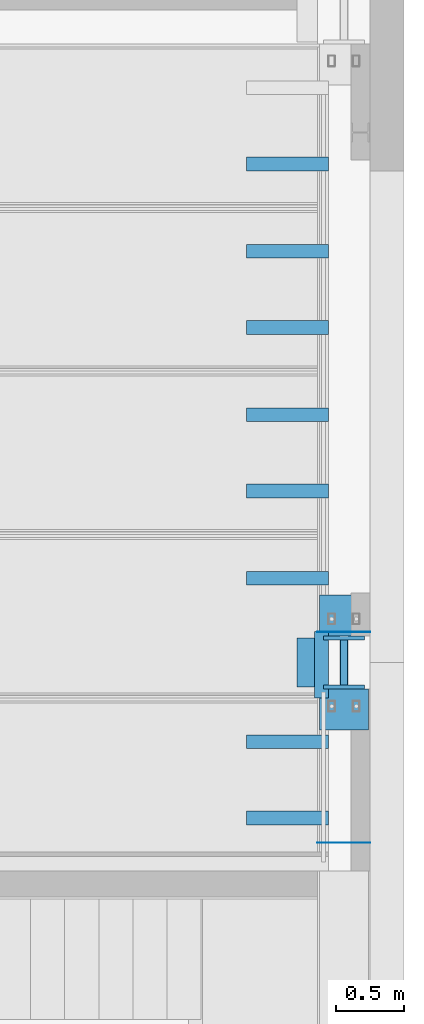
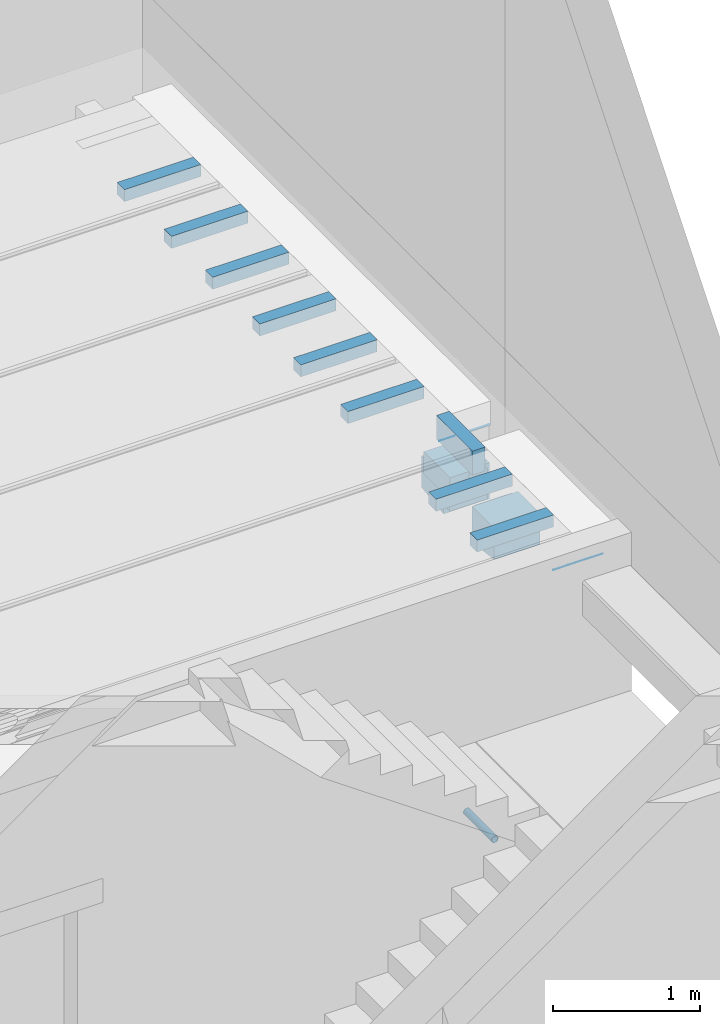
# One storey, part 28 of 230: 19 beams.
"""IFC4X3_ADD2 building model written with IfcOpenShell, lengths in millimetres."""

from ifc_helpers import new_model, entity, si_unit, direction, frame, frame_2d, origin_with_axes, place, context, subcontext, project, spatial, rectangle, hollow_circle, extrude, material, element, save


model = new_model("IFC4X3_ADD2")

# Units and contexts
model_context = context("Model", 3, precision=1e-05, world=origin_with_axes(), true_north=direction((0.0, 1.0)))
body_context = subcontext(model_context, "Body", "Model", "MODEL_VIEW")
ifc_project = project(units=[si_unit("LENGTHUNIT", "METRE", prefix="MILLI"), si_unit("AREAUNIT", "SQUARE_METRE"), si_unit("VOLUMEUNIT", "CUBIC_METRE"), si_unit("PLANEANGLEUNIT", "RADIAN"), si_unit("TIMEUNIT", "SECOND"), si_unit("MASSUNIT", "GRAM")], contexts=[model_context])

# Site, building, storey
site_placement = place(None, origin_with_axes())
site = spatial("IfcSite", under=ifc_project, at=site_placement, Name="Site", CompositionType="ELEMENT")
building_placement = place(site_placement, origin_with_axes())
building = spatial("IfcBuilding", under=site, at=building_placement, Name="IFC Building Story")
storey_placement = place(building_placement, origin_with_axes())
storey = spatial("IfcBuildingStorey", under=building, at=storey_placement, Name="ETAGE 00 (0)", Elevation=0.0)

# Beams
ifc_material_1 = material(Name="STEEL/Accessory_C50/60 64192")
for number, where, z_axis, x_axis, name in (
    (1, (48131.1886362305, 21274.9996109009, 3540.0), (1.0, 0.0, 0.0), (0.0, 0.0, 1.0), "BEK1"),
    (2, (48491.18863623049, 21964.9996109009, 3540.0), (-1.0, 0.0, 0.0), (0.0, 0.0, 1.0), "BEK1"),
):
    element("IfcBeam", number, at=place(storey_placement, frame(where, z_axis=z_axis, x_axis=x_axis)), inside=storey, material=ifc_material_1, Name=name, ObjectType="CORBEL300-300-260", context=body_context, shape_type="SweptSolid", body=[
        extrude(entity("IfcTrapeziumProfileDef", "AREA", None, entity("IfcAxis2Placement2D", entity("IfcCartesianPoint", [0.0, 5.95523630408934e-12]), entity("IfcDirection", [1.0, 0.0])), 300.0, 260.0, 300.0, 40.0), origin_with_axes(), (0.0, 0.0, 1.0), 359.9999999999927),
    ])
beam_1_placement = place(storey_placement, frame((48041.1886362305, 21799.9996109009, 3875.0), z_axis=(0.0, -1.0, 0.0), x_axis=(0.0, 0.0, 1.0)))
element("IfcBeam", 3, at=beam_1_placement, inside=storey, material=ifc_material_1, Name="BEK1", ObjectType="CORBEL200-150-180", context=body_context, shape_type="SweptSolid", body=[
    extrude(entity("IfcTrapeziumProfileDef", "AREA", None, entity("IfcAxis2Placement2D", entity("IfcCartesianPoint", [0.0, 5.95523630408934e-12]), entity("IfcDirection", [1.0, 0.0])), 200.0, 180.0, 150.0, 19.9999999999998), origin_with_axes(), (0.0, 0.0, 1.0), 360.0),
])
ifc_material_2 = material(Name="STEEL/Accessory_invisible")
beam_2_placement = place(storey_placement, frame((48096.18900000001, 21605.0006103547, 4100.0), z_axis=(1.0, 0.0, 0.0), x_axis=(0.0, 0.0, -1.0)))
element("IfcBeam", 4, at=beam_2_placement, inside=storey, material=ifc_material_2, Name="ES32", ObjectType="200*490", context=body_context, shape_type="SweptSolid", body=[
    extrude(rectangle(XDim=200.0, YDim=489.999999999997, at=frame_2d((0.0, 5.95523630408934e-12), x_axis=(1.0, 0.0))), origin_with_axes(), (0.0, 0.0, 1.0), 100.0),
])
for number, where, z_axis, x_axis, name in (
    (5, (48196.18900000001, 22240.0006103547, 4150.0), (-1.0, 0.0, 0.0), (0.0, -1.0, 0.0), "ES7"),
    (6, (48196.18900000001, 21040.0006103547, 4150.0), (-1.0, 0.0, 0.0), (0.0, -1.0, 0.0), "ES7"),
    (7, (48196.18900000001, 20480.0006103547, 4150.0), (-1.0, 0.0, 0.0), (0.0, -1.0, 0.0), "ES7"),
):
    element("IfcBeam", number, at=place(storey_placement, frame(where, z_axis=z_axis, x_axis=x_axis)), inside=storey, material=ifc_material_2, Name=name, ObjectType="100*100", context=body_context, shape_type="SweptSolid", body=[
        extrude(rectangle(XDim=100.0, YDim=99.99999999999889, at=frame_2d((0.0, 5.95523630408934e-12), x_axis=(1.0, 0.0))), origin_with_axes(), (0.0, 0.0, 1.0), 600.0),
    ])
ifc_material_3 = material(Name="STEEL/Accessory_EPS")
for number, where, z_axis, x_axis, name in (
    (8, (48461.1886362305, 21439.9996109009, 3544.99999999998), (-1.0, 0.0, 0.0), (0.0, 0.0, 1.0), "POL4"),
    (9, (48461.1886362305, 21799.9996109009, 3544.99999999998), (-1.0, 0.0, 0.0), (0.0, 0.0, 1.0), "POL4"),
):
    element("IfcBeam", number, at=place(storey_placement, frame(where, z_axis=z_axis, x_axis=x_axis)), inside=storey, material=ifc_material_3, Name=name, ObjectType="30*300", context=body_context, shape_type="SweptSolid", body=[
        extrude(rectangle(XDim=250.0, YDim=30.0000000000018, at=frame_2d((0.0, 5.95523630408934e-12), x_axis=(1.0, 0.0))), origin_with_axes(), (0.0, 0.0, 1.0), 300.0),
    ])
ifc_material_4 = material(Name="STEEL/Accessory_PVC")
beam_3_placement = place(storey_placement, frame((48311.1886362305, 21427.9996108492, 860.0), z_axis=(0.0, 1.0, 0.0), x_axis=(1.0, 0.0, 0.0)))
element("IfcBeam", 10, at=beam_3_placement, inside=storey, material=ifc_material_4, Name="PS13", ObjectType="O56*3", context=body_context, shape_type="SweptSolid", body=[
    extrude(hollow_circle(Radius=28.0, WallThickness=3.0, at=frame_2d((0.0, 5.95523630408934e-12), x_axis=(1.0, 0.0))), origin_with_axes(), (0.0, 0.0, 1.0), 384.0),
])
beam_4_placement = place(storey_placement, frame((48235.68599999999, 20297.6010619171, 3850.0), z_axis=(-1.0, 0.0, 0.0), x_axis=(0.0, 1.0, 0.0)))
element("IfcBeam", 11, at=beam_4_placement, inside=storey, material=ifc_material_2, Name="ZW3", ObjectType="1*1 3", context=body_context, shape_type="SweptSolid", body=[
    extrude(rectangle(XDim=0.9999999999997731, YDim=0.9999999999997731, at=frame_2d((0.0, 5.95523630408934e-12), x_axis=(1.0, 0.0))), origin_with_axes(), (0.0, 0.0, 1.0), 120.0),
])
for number, where, z_axis, x_axis, name in (
    (12, (48505.686, 20297.6010619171, 3850.0), (-1.0, 0.0, 0.0), (0.0, 1.0, 0.0), "ZW3"),
    (13, (48505.686, 21844.9996109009, 3984.5), (-1.0, 0.0, 0.0), (0.0, 1.0, 0.0), "ZW3"),
):
    element("IfcBeam", number, at=place(storey_placement, frame(where, z_axis=z_axis, x_axis=x_axis)), inside=storey, material=ifc_material_2, Name=name, ObjectType="1*1 3", context=body_context, shape_type="SweptSolid", body=[
        extrude(rectangle(XDim=0.9999999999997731, YDim=0.9999999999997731, at=frame_2d((0.0, 5.95523630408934e-12), x_axis=(1.0, 0.0))), origin_with_axes(), (0.0, 0.0, 1.0), 270.0000000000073),
    ])
beam_5_placement = place(storey_placement, frame((48235.586, 21844.9996109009, 3984.5), z_axis=(-1.0, 0.0, 0.0), x_axis=(0.0, 1.0, 0.0)))
element("IfcBeam", 14, at=beam_5_placement, inside=storey, material=ifc_material_2, Name="ZW3", ObjectType="1*1 3", context=body_context, shape_type="SweptSolid", body=[
    extrude(rectangle(XDim=0.9999999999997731, YDim=0.9999999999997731, at=frame_2d((0.0, 5.95523630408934e-12), x_axis=(1.0, 0.0))), origin_with_axes(), (0.0, 0.0, 1.0), 119.9000000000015),
])
for number, where, z_axis, x_axis, name in (
    (15, (48196.18900000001, 23440.0006103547, 4150.0), (-1.0, 0.0, 0.0), (0.0, -1.0, 0.0), "ES7"),
    (16, (48196.18900000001, 22880.0006103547, 4150.0), (-1.0, 0.0, 0.0), (0.0, -1.0, 0.0), "ES7"),
    (17, (48196.18900000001, 24640.0006103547, 4150.0), (-1.0, 0.0, 0.0), (0.0, -1.0, 0.0), "ES7"),
    (18, (48196.18900000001, 24080.0006103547, 4150.0), (-1.0, 0.0, 0.0), (0.0, -1.0, 0.0), "ES7"),
    (19, (48196.18900000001, 25280.0006103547, 4150.0), (-1.0, 0.0, 0.0), (0.0, -1.0, 0.0), "ES7"),
):
    element("IfcBeam", number, at=place(storey_placement, frame(where, z_axis=z_axis, x_axis=x_axis)), inside=storey, material=ifc_material_2, Name=name, ObjectType="100*100", context=body_context, shape_type="SweptSolid", body=[
        extrude(rectangle(XDim=100.0, YDim=99.99999999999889, at=frame_2d((0.0, 5.95523630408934e-12), x_axis=(1.0, 0.0))), origin_with_axes(), (0.0, 0.0, 1.0), 600.0),
    ])

save(model, "model.ifc")
